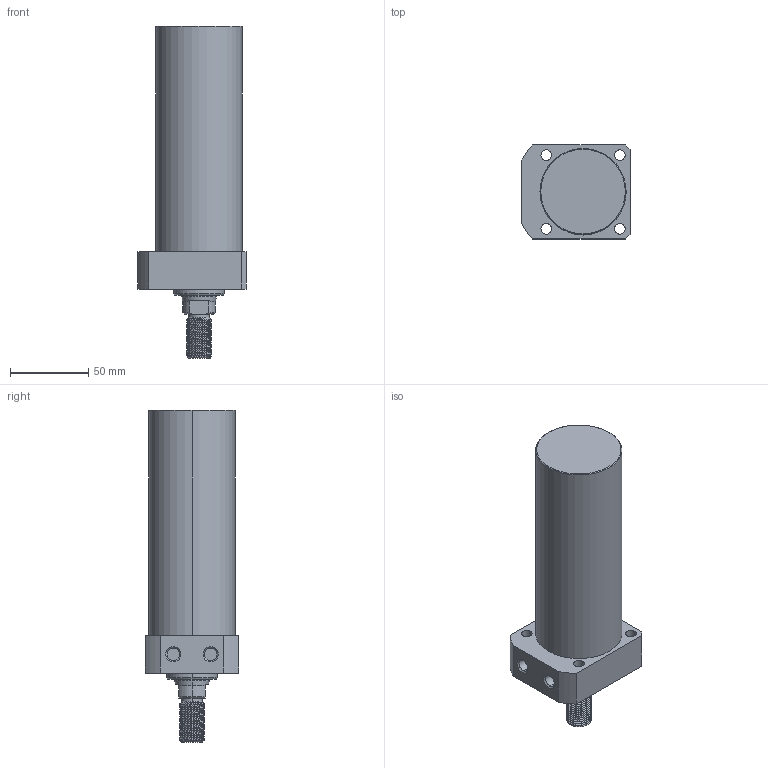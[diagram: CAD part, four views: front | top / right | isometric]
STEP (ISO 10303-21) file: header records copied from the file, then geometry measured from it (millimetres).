
FILE_DESCRIPTION (( 'STEP AP214' ), '1' );
FILE_NAME ('CLLR-055CT-115.STEP', '2020-01-10T00:54:21', ( 'Windows' ), ( 'Microsoft' ), 'SwSTEP 2.0', 'SolidWorks 2015', '' );
FILE_SCHEMA (( 'AUTOMOTIVE_DESIGN' ));
Length unit declared in the file: millimetre
Products named in the file (1): CLLR-055CT-115
Bounding box: 69 x 60 x 212 mm (x, y, z)
Volume: 446846.1 mm3; surface area: 44690.2 mm2
Topology: 1 solids, 1 shells, 102 faces, 262 edges, 170 vertices
Faces by surface type: cylinder 62, plane 20, cone 16, torus 2, bspline 2
Entity records: 5079 total; most frequent: CARTESIAN_POINT 2666, ORIENTED_EDGE 524, DIRECTION 461, EDGE_CURVE 262, AXIS2_PLACEMENT_3D 181, VERTEX_POINT 170, EDGE_LOOP 118, FACE_OUTER_BOUND 102
